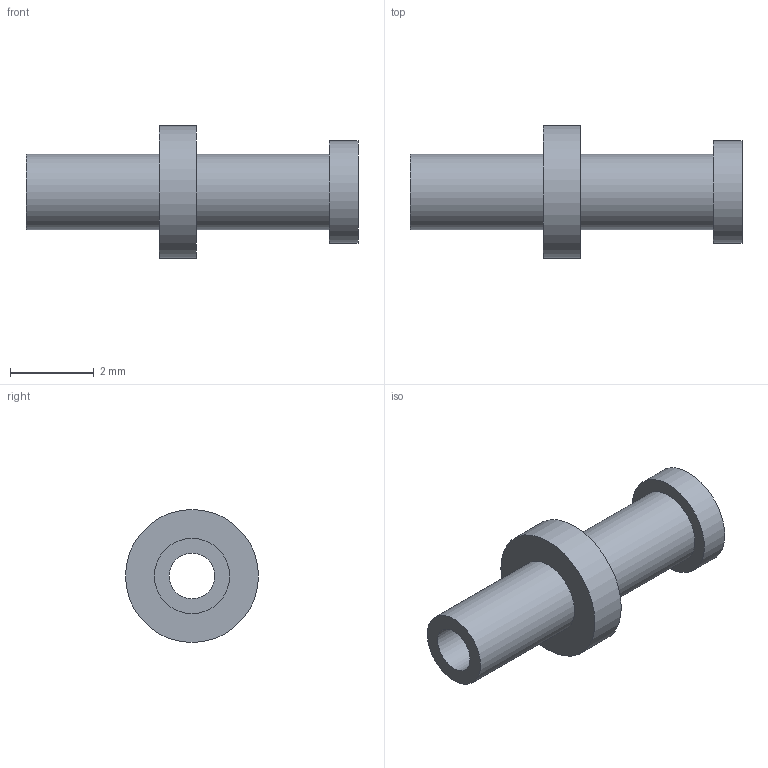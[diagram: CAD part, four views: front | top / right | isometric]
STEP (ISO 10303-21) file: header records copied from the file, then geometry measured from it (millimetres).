
FILE_DESCRIPTION(/* description */ (''),/* implementation_level */ '2;1');
FILE_NAME(/* name */ 'Z:\STEP folder\160-2027-03.ipt.stp',/* time_stamp */ '2016-12-07T10:49:49+00:00',/* author */ ('Paul Karlsons'),/* organization */ (''),/* preprocessor_version */ 'ST-DEVELOPER v15.2',/* originating_system */ 'Autodesk Inventor 2014',/* authorisation */ '');
FILE_SCHEMA (('AUTOMOTIVE_DESIGN { 1 0 10303 214 3 1 1 }'));
Length unit declared in the file: millimetre
Products named in the file (1): 160-2027-03
Bounding box: 7.92 x 3.17 x 3.17 mm (x, y, z)
Volume: 18.8 mm3; surface area: 94.9 mm2
Topology: 1 solids, 1 shells, 11 faces, 18 edges, 12 vertices
Faces by surface type: cylinder 5, plane 5, cone 1
Full cylindrical faces by diameter (mm): 1.092 x1, 1.8 x2, 2.438 x1, 3.175 x1
Entity records: 249 total; most frequent: DIRECTION 46, CARTESIAN_POINT 34, AXIS2_PLACEMENT_3D 23, EDGE_LOOP 22, ORIENTED_EDGE 22, FACE_BOUND 14, CIRCLE 11, VERTEX_POINT 11
